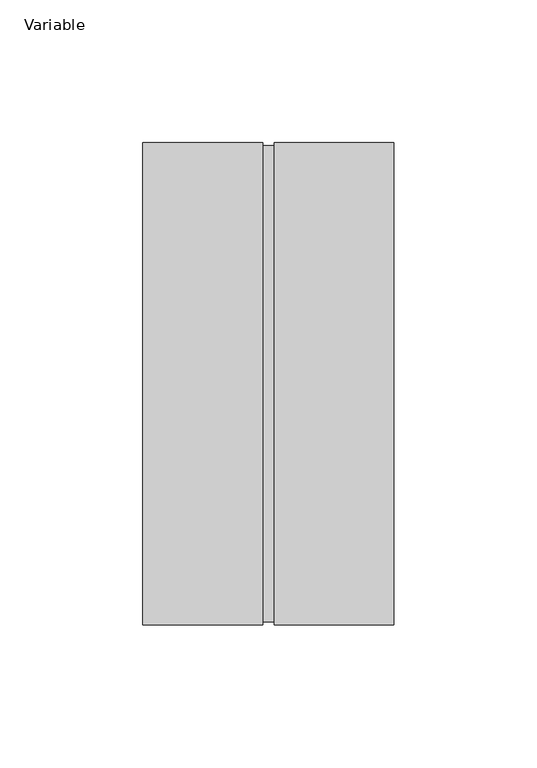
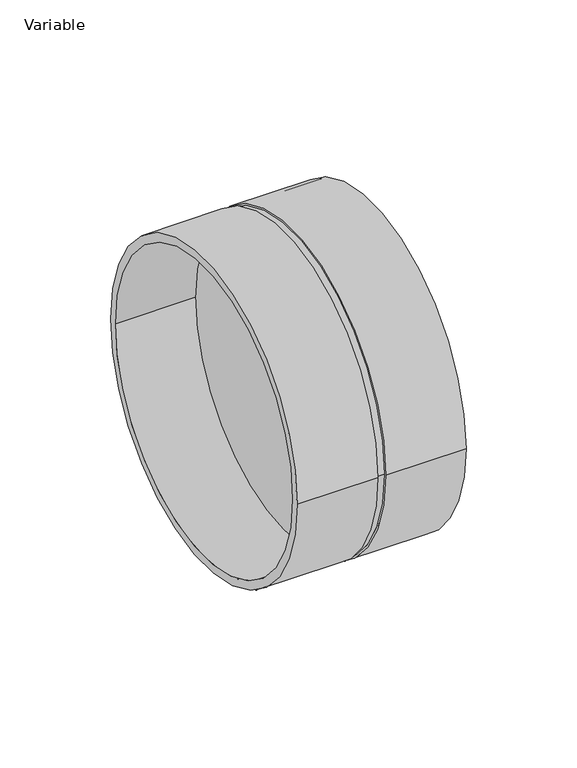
"""IFC4 building model written with IfcOpenShell, lengths in millimetres: pipe fitting geometry, AliaxisFR_Friaphon_RepairCoupling_FR : Variable."""

from ifc_helpers import new_model, si_unit, point, frame, origin, origin_2d, place, context, project, spatial, circle_curve, trimmed, segment, composite_curve, outline, extrude, source, transform, mapped, element, save


def variable_4b3dad6f(model_context):
    return source(origin(), model_context, "Body", "SweptSolid", [
        extrude(outline(composite_curve([segment(trimmed(circle_curve(origin_2d(), 84.5), [point((-84.5, 0.0))], [point((84.5, 0.0))], False, "CARTESIAN"), True, "CONTINUOUS"), segment(trimmed(circle_curve(origin_2d(), 84.5), [point((84.5, 0.0))], [point((-84.5, 0.0))], False, "CARTESIAN"), True, "CONTINUOUS")], self_intersect=False), holes=[composite_curve([segment(trimmed(circle_curve(origin_2d(), 83.5), [point((-83.5, 0.0))], [point((83.5, 0.0))], True, "CARTESIAN"), True, "CONTINUOUS"), segment(trimmed(circle_curve(origin_2d(), 83.5), [point((83.5, 0.0))], [point((-83.5, 0.0))], True, "CARTESIAN"), True, "CONTINUOUS")], self_intersect=False)]), frame((46.0, 0.0, 0.0), z_axis=(1.0, 0.0, 0.0), x_axis=(0.0, 1.0, 0.0)), (0.0, 0.0, 1.0), 42.0),
        extrude(outline(composite_curve([segment(trimmed(circle_curve(origin_2d(), 83.5), [point((-83.5, 0.0))], [point((83.5, 0.0))], False, "CARTESIAN"), True, "CONTINUOUS"), segment(trimmed(circle_curve(origin_2d(), 83.5), [point((83.5, 0.0))], [point((-83.5, 0.0))], False, "CARTESIAN"), True, "CONTINUOUS")], self_intersect=False)), frame((42.0, 0.0, 0.0), z_axis=(1.0, 0.0, 0.0), x_axis=(0.0, 1.0, 0.0)), (0.0, 0.0, 1.0), 4.0),
        extrude(outline(composite_curve([segment(trimmed(circle_curve(origin_2d(), 84.5), [point((-84.5, 0.0))], [point((84.5, 0.0))], False, "CARTESIAN"), True, "CONTINUOUS"), segment(trimmed(circle_curve(origin_2d(), 84.5), [point((84.5, 0.0))], [point((-84.5, 0.0))], False, "CARTESIAN"), True, "CONTINUOUS")], self_intersect=False), holes=[composite_curve([segment(trimmed(circle_curve(origin_2d(), 80.0), [point((-80.0, 0.0))], [point((80.0, 0.0))], True, "CARTESIAN"), True, "CONTINUOUS"), segment(trimmed(circle_curve(origin_2d(), 80.0), [point((80.0, 0.0))], [point((-80.0, 0.0))], True, "CARTESIAN"), True, "CONTINUOUS")], self_intersect=False)]), frame((0.0, 0.0, 0.0), z_axis=(1.0, 0.0, 0.0), x_axis=(0.0, 1.0, 0.0)), (0.0, 0.0, 1.0), 42.0),
    ])


if __name__ == "__main__":
    model = new_model("IFC4")
    model_context = context("Model", 3, world=origin())
    ifc_project = project(units=[si_unit("LENGTHUNIT", "METRE", prefix="MILLI")], contexts=[model_context])
    site = spatial("IfcSite", under=ifc_project)
    building = spatial("IfcBuilding", under=site)
    placement = place(None, origin())
    variable_shape = variable_4b3dad6f(model_context)
    element("IfcPipeFitting", 1, ObjectType="AliaxisFR_Friaphon_RepairCoupling_FR : Variable", at=placement, inside=building, context=model_context, shape_type="MappedRepresentation", body=[
        mapped(variable_shape, transform((0.0, 0.0, 0.0), x_axis=(1.0, 0.0, 0.0), y_axis=(0.0, 1.0, 0.0), z_axis=(0.0, 0.0, 1.0))),
    ])
    save(model, "model.ifc")
